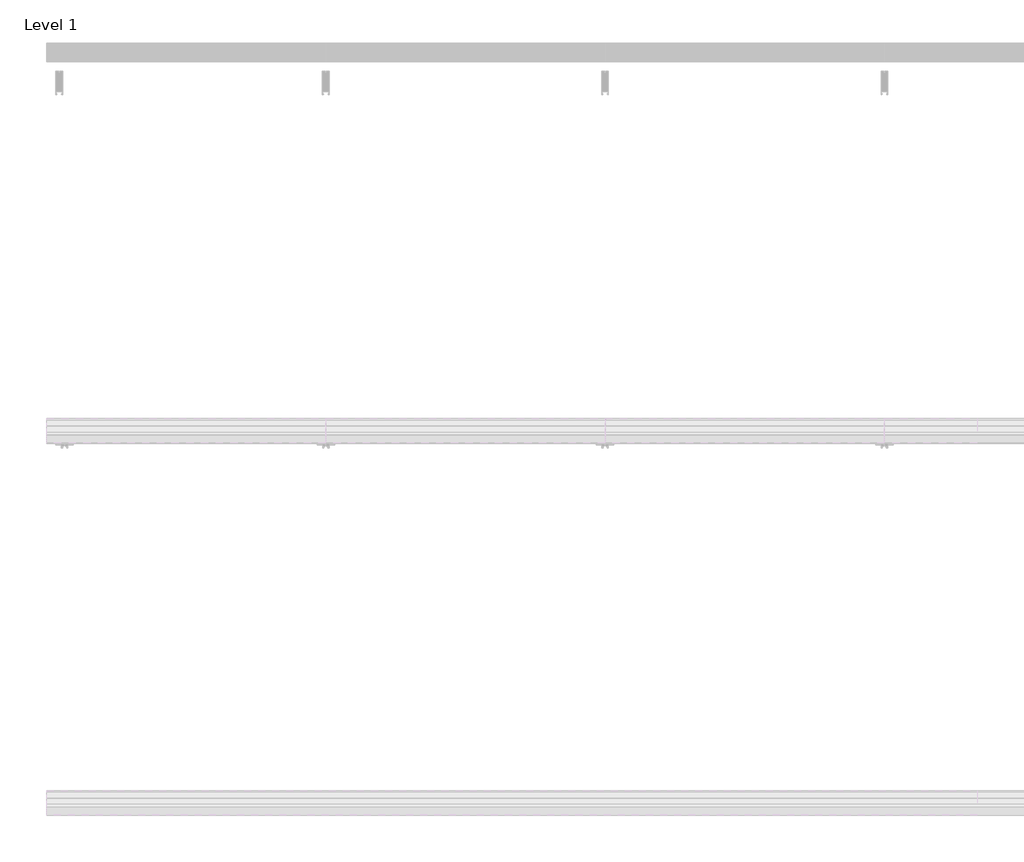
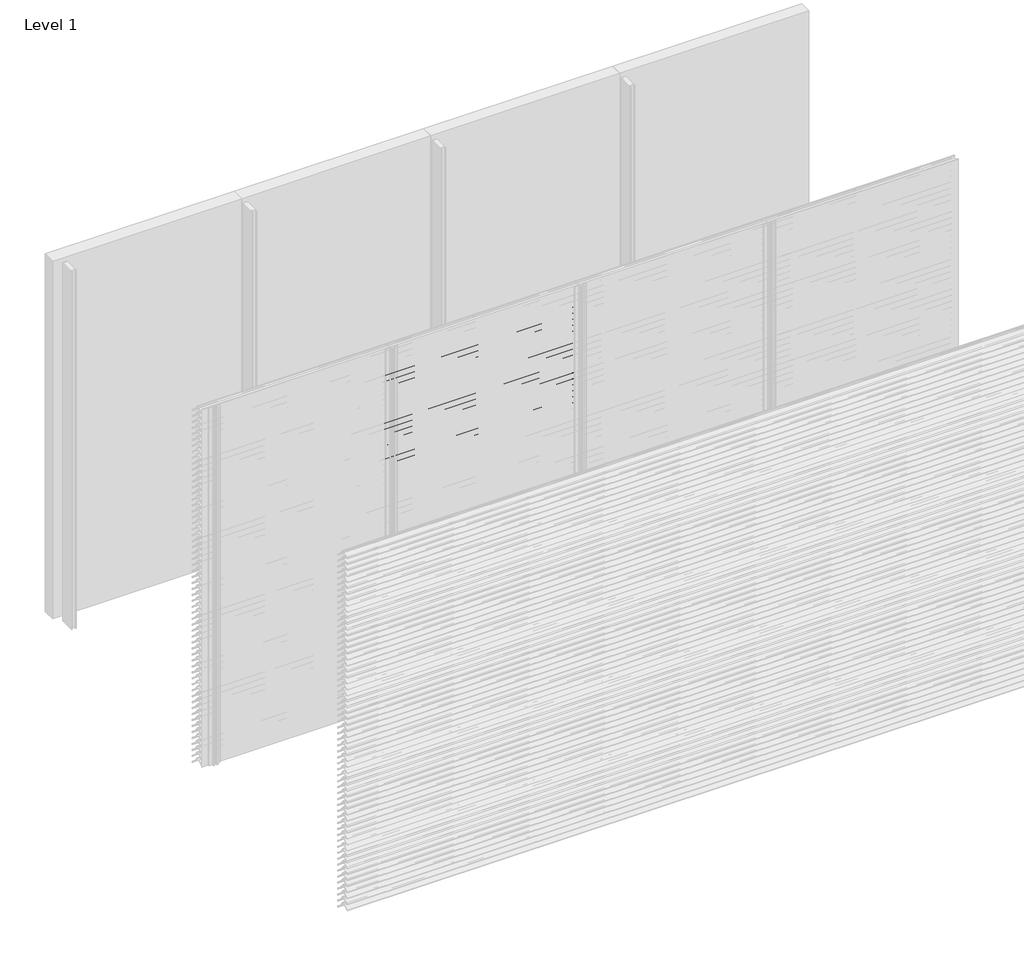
# One storey, part 10 of 173: 17 proxies.
"""IFC4 building model written with IfcOpenShell, lengths in millimetres."""

from ifc_helpers import new_model, si_unit, point, frame, frame_2d, origin, place, context, project, spatial, polyline, circle_curve, trimmed, segment, composite_curve, outline, extrude, element, save

model = new_model("IFC4")

# Units and contexts
model_context = context("Model", 3, world=origin())
ifc_project = project(units=[si_unit("LENGTHUNIT", "METRE", prefix="MILLI")], contexts=[model_context])

# Site, building, storey
site = spatial("IfcSite", under=ifc_project)
building = spatial("IfcBuilding", under=site)
storey = spatial("IfcBuildingStorey", under=building, Name="Level 1", Elevation=0.0)

# Proxies
placement = place(None, origin())
element("IfcBuildingElementProxy", 1, Name="Wall Sweeps", at=placement, inside=storey, context=model_context, shape_type="SweptSolid", body=[
    extrude(outline(composite_curve([segment(polyline([(-53998.0, 2759.1474905), (-53998.0, 2761.6227417)]), True, "CONTINUOUS"), segment(trimmed(circle_curve(frame_2d((-53951.2682172, 2716.2200208)), 65.1557103), [point((-53998.0, 2761.6227417))], [point((-53954.4014323, 2781.3003524))], False, "CARTESIAN"), True, "CONTINUOUS"), segment(polyline([(-53954.4014323, 2781.3003524), (-53934.8315836, 2781.3003524)]), True, "CONTINUOUS"), segment(trimmed(circle_curve(frame_2d((-53732.7329489, 2928.5533172)), 250.0545817), [point((-53934.8315836, 2781.3003524))], [point((-53941.4452143, 2790.8344583))], False, "CARTESIAN"), True, "CONTINUOUS"), segment(trimmed(circle_curve(frame_2d((-53953.2981792, 2785.1737835)), 13.1352966), [point((-53941.4452143, 2790.8344583))], [point((-53953.8171475, 2798.298824))], True, "CARTESIAN"), True, "CONTINUOUS"), segment(polyline([(-53953.8171475, 2798.298824), (-53953.8171475, 2800.0)]), True, "CONTINUOUS"), segment(trimmed(circle_curve(frame_2d((-53953.2981792, 2785.1737835)), 14.8352966), [point((-53953.8171475, 2800.0))], [point((-53939.9637661, 2791.6760487))], False, "CARTESIAN"), True, "CONTINUOUS"), segment(trimmed(circle_curve(frame_2d((-53732.7329489, 2928.5533172)), 248.3545817), [point((-53939.9637661, 2791.6760487))], [point((-53873.8787895, 2724.2059416))], True, "CARTESIAN"), True, "CONTINUOUS"), segment(trimmed(circle_curve(frame_2d((-53883.8147537, 2711.6649442)), 16.0), [point((-53873.8787895, 2724.2059416))], [point((-53867.8648347, 2710.4))], False, "CARTESIAN"), True, "CONTINUOUS"), segment(polyline([(-53867.8648347, 2710.4), (-53869.6712069, 2710.4)]), True, "CONTINUOUS"), segment(trimmed(circle_curve(frame_2d((-53883.8147537, 2711.6649442)), 14.2), [point((-53869.6712069, 2710.4))], [point((-53874.9518628, 2722.7594998))], True, "CARTESIAN"), True, "CONTINUOUS"), segment(trimmed(circle_curve(frame_2d((-53732.7329489, 2928.5533172)), 250.1545817), [point((-53874.9518628, 2722.7594998))], [point((-53933.7064024, 2779.6003524))], False, "CARTESIAN"), True, "CONTINUOUS"), segment(polyline([(-53933.7064024, 2779.6003524), (-53954.3602632, 2779.6003524)]), True, "CONTINUOUS"), segment(trimmed(circle_curve(frame_2d((-53951.2682172, 2716.2200208)), 63.4557103), [point((-53954.3602632, 2779.6003524))], [point((-53998.0, 2759.1474905))], True, "CARTESIAN"), True, "CONTINUOUS")], self_intersect=False)), frame((1500.0, 0.0, 0.0), z_axis=(1.0, 0.0, 0.0), x_axis=(0.0, 1.0, 0.0)), (0.0, 0.0, 1.0), 1500.0),
])
element("IfcBuildingElementProxy", 2, Name="Wall Sweeps", at=placement, inside=storey, context=model_context, shape_type="SweptSolid", body=[
    extrude(outline(composite_curve([segment(polyline([(-53998.0, 2709.1474905), (-53998.0, 2711.6227417)]), True, "CONTINUOUS"), segment(trimmed(circle_curve(frame_2d((-53951.2682172, 2666.2200208)), 65.1557103), [point((-53998.0, 2711.6227417))], [point((-53954.4014323, 2731.3003524))], False, "CARTESIAN"), True, "CONTINUOUS"), segment(polyline([(-53954.4014323, 2731.3003524), (-53934.8315836, 2731.3003524)]), True, "CONTINUOUS"), segment(trimmed(circle_curve(frame_2d((-53732.7329489, 2878.5533172)), 250.0545817), [point((-53934.8315836, 2731.3003524))], [point((-53941.4452143, 2740.8344583))], False, "CARTESIAN"), True, "CONTINUOUS"), segment(trimmed(circle_curve(frame_2d((-53953.2981792, 2735.1737835)), 13.1352966), [point((-53941.4452143, 2740.8344583))], [point((-53953.8171475, 2748.298824))], True, "CARTESIAN"), True, "CONTINUOUS"), segment(polyline([(-53953.8171475, 2748.298824), (-53953.8171475, 2750.0)]), True, "CONTINUOUS"), segment(trimmed(circle_curve(frame_2d((-53953.2981792, 2735.1737835)), 14.8352966), [point((-53953.8171475, 2750.0))], [point((-53939.9637661, 2741.6760487))], False, "CARTESIAN"), True, "CONTINUOUS"), segment(trimmed(circle_curve(frame_2d((-53732.7329489, 2878.5533172)), 248.3545817), [point((-53939.9637661, 2741.6760487))], [point((-53873.8787895, 2674.2059416))], True, "CARTESIAN"), True, "CONTINUOUS"), segment(trimmed(circle_curve(frame_2d((-53883.8147537, 2661.6649442)), 16.0), [point((-53873.8787895, 2674.2059416))], [point((-53867.8648347, 2660.4))], False, "CARTESIAN"), True, "CONTINUOUS"), segment(polyline([(-53867.8648347, 2660.4), (-53869.6712069, 2660.4)]), True, "CONTINUOUS"), segment(trimmed(circle_curve(frame_2d((-53883.8147537, 2661.6649442)), 14.2), [point((-53869.6712069, 2660.4))], [point((-53874.9518628, 2672.7594998))], True, "CARTESIAN"), True, "CONTINUOUS"), segment(trimmed(circle_curve(frame_2d((-53732.7329489, 2878.5533172)), 250.1545817), [point((-53874.9518628, 2672.7594998))], [point((-53933.7064024, 2729.6003524))], False, "CARTESIAN"), True, "CONTINUOUS"), segment(polyline([(-53933.7064024, 2729.6003524), (-53954.3602632, 2729.6003524)]), True, "CONTINUOUS"), segment(trimmed(circle_curve(frame_2d((-53951.2682172, 2666.2200208)), 63.4557103), [point((-53954.3602632, 2729.6003524))], [point((-53998.0, 2709.1474905))], True, "CARTESIAN"), True, "CONTINUOUS")], self_intersect=False)), frame((1500.0, 0.0, 0.0), z_axis=(1.0, 0.0, 0.0), x_axis=(0.0, 1.0, 0.0)), (0.0, 0.0, 1.0), 1500.0),
])
element("IfcBuildingElementProxy", 3, Name="Wall Sweeps", at=placement, inside=storey, context=model_context, shape_type="SweptSolid", body=[
    extrude(outline(composite_curve([segment(polyline([(-53998.0, 2659.1474905), (-53998.0, 2661.6227417)]), True, "CONTINUOUS"), segment(trimmed(circle_curve(frame_2d((-53951.2682172, 2616.2200208)), 65.1557103), [point((-53998.0, 2661.6227417))], [point((-53954.4014323, 2681.3003524))], False, "CARTESIAN"), True, "CONTINUOUS"), segment(polyline([(-53954.4014323, 2681.3003524), (-53934.8315836, 2681.3003524)]), True, "CONTINUOUS"), segment(trimmed(circle_curve(frame_2d((-53732.7329489, 2828.5533172)), 250.0545817), [point((-53934.8315836, 2681.3003524))], [point((-53941.4452143, 2690.8344583))], False, "CARTESIAN"), True, "CONTINUOUS"), segment(trimmed(circle_curve(frame_2d((-53953.2981792, 2685.1737835)), 13.1352966), [point((-53941.4452143, 2690.8344583))], [point((-53953.8171475, 2698.298824))], True, "CARTESIAN"), True, "CONTINUOUS"), segment(polyline([(-53953.8171475, 2698.298824), (-53953.8171475, 2700.0)]), True, "CONTINUOUS"), segment(trimmed(circle_curve(frame_2d((-53953.2981792, 2685.1737835)), 14.8352966), [point((-53953.8171475, 2700.0))], [point((-53939.9637661, 2691.6760487))], False, "CARTESIAN"), True, "CONTINUOUS"), segment(trimmed(circle_curve(frame_2d((-53732.7329489, 2828.5533172)), 248.3545817), [point((-53939.9637661, 2691.6760487))], [point((-53873.8787895, 2624.2059416))], True, "CARTESIAN"), True, "CONTINUOUS"), segment(trimmed(circle_curve(frame_2d((-53883.8147537, 2611.6649442)), 16.0), [point((-53873.8787895, 2624.2059416))], [point((-53867.8648347, 2610.4))], False, "CARTESIAN"), True, "CONTINUOUS"), segment(polyline([(-53867.8648347, 2610.4), (-53869.6712069, 2610.4)]), True, "CONTINUOUS"), segment(trimmed(circle_curve(frame_2d((-53883.8147537, 2611.6649442)), 14.2), [point((-53869.6712069, 2610.4))], [point((-53874.9518628, 2622.7594998))], True, "CARTESIAN"), True, "CONTINUOUS"), segment(trimmed(circle_curve(frame_2d((-53732.7329489, 2828.5533172)), 250.1545817), [point((-53874.9518628, 2622.7594998))], [point((-53933.7064024, 2679.6003524))], False, "CARTESIAN"), True, "CONTINUOUS"), segment(polyline([(-53933.7064024, 2679.6003524), (-53954.3602632, 2679.6003524)]), True, "CONTINUOUS"), segment(trimmed(circle_curve(frame_2d((-53951.2682172, 2616.2200208)), 63.4557103), [point((-53954.3602632, 2679.6003524))], [point((-53998.0, 2659.1474905))], True, "CARTESIAN"), True, "CONTINUOUS")], self_intersect=False)), frame((1500.0, 0.0, 0.0), z_axis=(1.0, 0.0, 0.0), x_axis=(0.0, 1.0, 0.0)), (0.0, 0.0, 1.0), 1500.0),
])
element("IfcBuildingElementProxy", 4, Name="Wall Sweeps", at=placement, inside=storey, context=model_context, shape_type="SweptSolid", body=[
    extrude(outline(composite_curve([segment(polyline([(-53998.0, 2609.1474905), (-53998.0, 2611.6227417)]), True, "CONTINUOUS"), segment(trimmed(circle_curve(frame_2d((-53951.2682172, 2566.2200208)), 65.1557103), [point((-53998.0, 2611.6227417))], [point((-53954.4014323, 2631.3003524))], False, "CARTESIAN"), True, "CONTINUOUS"), segment(polyline([(-53954.4014323, 2631.3003524), (-53934.8315836, 2631.3003524)]), True, "CONTINUOUS"), segment(trimmed(circle_curve(frame_2d((-53732.7329489, 2778.5533172)), 250.0545817), [point((-53934.8315836, 2631.3003524))], [point((-53941.4452143, 2640.8344583))], False, "CARTESIAN"), True, "CONTINUOUS"), segment(trimmed(circle_curve(frame_2d((-53953.2981792, 2635.1737835)), 13.1352966), [point((-53941.4452143, 2640.8344583))], [point((-53953.8171475, 2648.298824))], True, "CARTESIAN"), True, "CONTINUOUS"), segment(polyline([(-53953.8171475, 2648.298824), (-53953.8171475, 2650.0)]), True, "CONTINUOUS"), segment(trimmed(circle_curve(frame_2d((-53953.2981792, 2635.1737835)), 14.8352966), [point((-53953.8171475, 2650.0))], [point((-53939.9637661, 2641.6760487))], False, "CARTESIAN"), True, "CONTINUOUS"), segment(trimmed(circle_curve(frame_2d((-53732.7329489, 2778.5533172)), 248.3545817), [point((-53939.9637661, 2641.6760487))], [point((-53873.8787895, 2574.2059416))], True, "CARTESIAN"), True, "CONTINUOUS"), segment(trimmed(circle_curve(frame_2d((-53883.8147537, 2561.6649442)), 16.0), [point((-53873.8787895, 2574.2059416))], [point((-53867.8648347, 2560.4))], False, "CARTESIAN"), True, "CONTINUOUS"), segment(polyline([(-53867.8648347, 2560.4), (-53869.6712069, 2560.4)]), True, "CONTINUOUS"), segment(trimmed(circle_curve(frame_2d((-53883.8147537, 2561.6649442)), 14.2), [point((-53869.6712069, 2560.4))], [point((-53874.9518628, 2572.7594998))], True, "CARTESIAN"), True, "CONTINUOUS"), segment(trimmed(circle_curve(frame_2d((-53732.7329489, 2778.5533172)), 250.1545817), [point((-53874.9518628, 2572.7594998))], [point((-53933.7064024, 2629.6003524))], False, "CARTESIAN"), True, "CONTINUOUS"), segment(polyline([(-53933.7064024, 2629.6003524), (-53954.3602632, 2629.6003524)]), True, "CONTINUOUS"), segment(trimmed(circle_curve(frame_2d((-53951.2682172, 2566.2200208)), 63.4557103), [point((-53954.3602632, 2629.6003524))], [point((-53998.0, 2609.1474905))], True, "CARTESIAN"), True, "CONTINUOUS")], self_intersect=False)), frame((1500.0, 0.0, 0.0), z_axis=(1.0, 0.0, 0.0), x_axis=(0.0, 1.0, 0.0)), (0.0, 0.0, 1.0), 1500.0),
])
element("IfcBuildingElementProxy", 5, Name="Wall Sweeps", at=placement, inside=storey, context=model_context, shape_type="SweptSolid", body=[
    extrude(outline(composite_curve([segment(polyline([(-53998.0, 2559.1474905), (-53998.0, 2561.6227417)]), True, "CONTINUOUS"), segment(trimmed(circle_curve(frame_2d((-53951.2682172, 2516.2200208)), 65.1557103), [point((-53998.0, 2561.6227417))], [point((-53954.4014323, 2581.3003524))], False, "CARTESIAN"), True, "CONTINUOUS"), segment(polyline([(-53954.4014323, 2581.3003524), (-53934.8315836, 2581.3003524)]), True, "CONTINUOUS"), segment(trimmed(circle_curve(frame_2d((-53732.7329489, 2728.5533172)), 250.0545817), [point((-53934.8315836, 2581.3003524))], [point((-53941.4452143, 2590.8344583))], False, "CARTESIAN"), True, "CONTINUOUS"), segment(trimmed(circle_curve(frame_2d((-53953.2981792, 2585.1737835)), 13.1352966), [point((-53941.4452143, 2590.8344583))], [point((-53953.8171475, 2598.298824))], True, "CARTESIAN"), True, "CONTINUOUS"), segment(polyline([(-53953.8171475, 2598.298824), (-53953.8171475, 2600.0)]), True, "CONTINUOUS"), segment(trimmed(circle_curve(frame_2d((-53953.2981792, 2585.1737835)), 14.8352966), [point((-53953.8171475, 2600.0))], [point((-53939.9637661, 2591.6760487))], False, "CARTESIAN"), True, "CONTINUOUS"), segment(trimmed(circle_curve(frame_2d((-53732.7329489, 2728.5533172)), 248.3545817), [point((-53939.9637661, 2591.6760487))], [point((-53873.8787895, 2524.2059416))], True, "CARTESIAN"), True, "CONTINUOUS"), segment(trimmed(circle_curve(frame_2d((-53883.8147537, 2511.6649442)), 16.0), [point((-53873.8787895, 2524.2059416))], [point((-53867.8648347, 2510.4))], False, "CARTESIAN"), True, "CONTINUOUS"), segment(polyline([(-53867.8648347, 2510.4), (-53869.6712069, 2510.4)]), True, "CONTINUOUS"), segment(trimmed(circle_curve(frame_2d((-53883.8147537, 2511.6649442)), 14.2), [point((-53869.6712069, 2510.4))], [point((-53874.9518628, 2522.7594998))], True, "CARTESIAN"), True, "CONTINUOUS"), segment(trimmed(circle_curve(frame_2d((-53732.7329489, 2728.5533172)), 250.1545817), [point((-53874.9518628, 2522.7594998))], [point((-53933.7064024, 2579.6003524))], False, "CARTESIAN"), True, "CONTINUOUS"), segment(polyline([(-53933.7064024, 2579.6003524), (-53954.3602632, 2579.6003524)]), True, "CONTINUOUS"), segment(trimmed(circle_curve(frame_2d((-53951.2682172, 2516.2200208)), 63.4557103), [point((-53954.3602632, 2579.6003524))], [point((-53998.0, 2559.1474905))], True, "CARTESIAN"), True, "CONTINUOUS")], self_intersect=False)), frame((1500.0, 0.0, 0.0), z_axis=(1.0, 0.0, 0.0), x_axis=(0.0, 1.0, 0.0)), (0.0, 0.0, 1.0), 1500.0),
])
element("IfcBuildingElementProxy", 6, Name="Wall Sweeps", at=placement, inside=storey, context=model_context, shape_type="SweptSolid", body=[
    extrude(outline(composite_curve([segment(polyline([(-53998.0, 2509.1474905), (-53998.0, 2511.6227417)]), True, "CONTINUOUS"), segment(trimmed(circle_curve(frame_2d((-53951.2682172, 2466.2200208)), 65.1557103), [point((-53998.0, 2511.6227417))], [point((-53954.4014323, 2531.3003524))], False, "CARTESIAN"), True, "CONTINUOUS"), segment(polyline([(-53954.4014323, 2531.3003524), (-53934.8315836, 2531.3003524)]), True, "CONTINUOUS"), segment(trimmed(circle_curve(frame_2d((-53732.7329489, 2678.5533172)), 250.0545817), [point((-53934.8315836, 2531.3003524))], [point((-53941.4452143, 2540.8344583))], False, "CARTESIAN"), True, "CONTINUOUS"), segment(trimmed(circle_curve(frame_2d((-53953.2981792, 2535.1737835)), 13.1352966), [point((-53941.4452143, 2540.8344583))], [point((-53953.8171475, 2548.298824))], True, "CARTESIAN"), True, "CONTINUOUS"), segment(polyline([(-53953.8171475, 2548.298824), (-53953.8171475, 2550.0)]), True, "CONTINUOUS"), segment(trimmed(circle_curve(frame_2d((-53953.2981792, 2535.1737835)), 14.8352966), [point((-53953.8171475, 2550.0))], [point((-53939.9637661, 2541.6760487))], False, "CARTESIAN"), True, "CONTINUOUS"), segment(trimmed(circle_curve(frame_2d((-53732.7329489, 2678.5533172)), 248.3545817), [point((-53939.9637661, 2541.6760487))], [point((-53873.8787895, 2474.2059416))], True, "CARTESIAN"), True, "CONTINUOUS"), segment(trimmed(circle_curve(frame_2d((-53883.8147537, 2461.6649442)), 16.0), [point((-53873.8787895, 2474.2059416))], [point((-53867.8648347, 2460.4))], False, "CARTESIAN"), True, "CONTINUOUS"), segment(polyline([(-53867.8648347, 2460.4), (-53869.6712069, 2460.4)]), True, "CONTINUOUS"), segment(trimmed(circle_curve(frame_2d((-53883.8147537, 2461.6649442)), 14.2), [point((-53869.6712069, 2460.4))], [point((-53874.9518628, 2472.7594998))], True, "CARTESIAN"), True, "CONTINUOUS"), segment(trimmed(circle_curve(frame_2d((-53732.7329489, 2678.5533172)), 250.1545817), [point((-53874.9518628, 2472.7594998))], [point((-53933.7064024, 2529.6003524))], False, "CARTESIAN"), True, "CONTINUOUS"), segment(polyline([(-53933.7064024, 2529.6003524), (-53954.3602632, 2529.6003524)]), True, "CONTINUOUS"), segment(trimmed(circle_curve(frame_2d((-53951.2682172, 2466.2200208)), 63.4557103), [point((-53954.3602632, 2529.6003524))], [point((-53998.0, 2509.1474905))], True, "CARTESIAN"), True, "CONTINUOUS")], self_intersect=False)), frame((1500.0, 0.0, 0.0), z_axis=(1.0, 0.0, 0.0), x_axis=(0.0, 1.0, 0.0)), (0.0, 0.0, 1.0), 1500.0),
])
element("IfcBuildingElementProxy", 7, Name="Wall Sweeps", at=placement, inside=storey, context=model_context, shape_type="SweptSolid", body=[
    extrude(outline(composite_curve([segment(polyline([(-53998.0, 2459.1474905), (-53998.0, 2461.6227417)]), True, "CONTINUOUS"), segment(trimmed(circle_curve(frame_2d((-53951.2682172, 2416.2200208)), 65.1557103), [point((-53998.0, 2461.6227417))], [point((-53954.4014323, 2481.3003524))], False, "CARTESIAN"), True, "CONTINUOUS"), segment(polyline([(-53954.4014323, 2481.3003524), (-53934.8315836, 2481.3003524)]), True, "CONTINUOUS"), segment(trimmed(circle_curve(frame_2d((-53732.7329489, 2628.5533172)), 250.0545817), [point((-53934.8315836, 2481.3003524))], [point((-53941.4452143, 2490.8344583))], False, "CARTESIAN"), True, "CONTINUOUS"), segment(trimmed(circle_curve(frame_2d((-53953.2981792, 2485.1737835)), 13.1352966), [point((-53941.4452143, 2490.8344583))], [point((-53953.8171475, 2498.298824))], True, "CARTESIAN"), True, "CONTINUOUS"), segment(polyline([(-53953.8171475, 2498.298824), (-53953.8171475, 2500.0)]), True, "CONTINUOUS"), segment(trimmed(circle_curve(frame_2d((-53953.2981792, 2485.1737835)), 14.8352966), [point((-53953.8171475, 2500.0))], [point((-53939.9637661, 2491.6760487))], False, "CARTESIAN"), True, "CONTINUOUS"), segment(trimmed(circle_curve(frame_2d((-53732.7329489, 2628.5533172)), 248.3545817), [point((-53939.9637661, 2491.6760487))], [point((-53873.8787895, 2424.2059416))], True, "CARTESIAN"), True, "CONTINUOUS"), segment(trimmed(circle_curve(frame_2d((-53883.8147537, 2411.6649442)), 16.0), [point((-53873.8787895, 2424.2059416))], [point((-53867.8648347, 2410.4))], False, "CARTESIAN"), True, "CONTINUOUS"), segment(polyline([(-53867.8648347, 2410.4), (-53869.6712069, 2410.4)]), True, "CONTINUOUS"), segment(trimmed(circle_curve(frame_2d((-53883.8147537, 2411.6649442)), 14.2), [point((-53869.6712069, 2410.4))], [point((-53874.9518628, 2422.7594998))], True, "CARTESIAN"), True, "CONTINUOUS"), segment(trimmed(circle_curve(frame_2d((-53732.7329489, 2628.5533172)), 250.1545817), [point((-53874.9518628, 2422.7594998))], [point((-53933.7064024, 2479.6003524))], False, "CARTESIAN"), True, "CONTINUOUS"), segment(polyline([(-53933.7064024, 2479.6003524), (-53954.3602632, 2479.6003524)]), True, "CONTINUOUS"), segment(trimmed(circle_curve(frame_2d((-53951.2682172, 2416.2200208)), 63.4557103), [point((-53954.3602632, 2479.6003524))], [point((-53998.0, 2459.1474905))], True, "CARTESIAN"), True, "CONTINUOUS")], self_intersect=False)), frame((1500.0, 0.0, 0.0), z_axis=(1.0, 0.0, 0.0), x_axis=(0.0, 1.0, 0.0)), (0.0, 0.0, 1.0), 1500.0),
])
element("IfcBuildingElementProxy", 8, Name="Wall Sweeps", at=placement, inside=storey, context=model_context, shape_type="SweptSolid", body=[
    extrude(outline(composite_curve([segment(polyline([(-53998.0, 2409.1474905), (-53998.0, 2411.6227417)]), True, "CONTINUOUS"), segment(trimmed(circle_curve(frame_2d((-53951.2682172, 2366.2200208)), 65.1557103), [point((-53998.0, 2411.6227417))], [point((-53954.4014323, 2431.3003524))], False, "CARTESIAN"), True, "CONTINUOUS"), segment(polyline([(-53954.4014323, 2431.3003524), (-53934.8315836, 2431.3003524)]), True, "CONTINUOUS"), segment(trimmed(circle_curve(frame_2d((-53732.7329489, 2578.5533172)), 250.0545817), [point((-53934.8315836, 2431.3003524))], [point((-53941.4452143, 2440.8344583))], False, "CARTESIAN"), True, "CONTINUOUS"), segment(trimmed(circle_curve(frame_2d((-53953.2981792, 2435.1737835)), 13.1352966), [point((-53941.4452143, 2440.8344583))], [point((-53953.8171475, 2448.298824))], True, "CARTESIAN"), True, "CONTINUOUS"), segment(polyline([(-53953.8171475, 2448.298824), (-53953.8171475, 2450.0)]), True, "CONTINUOUS"), segment(trimmed(circle_curve(frame_2d((-53953.2981792, 2435.1737835)), 14.8352966), [point((-53953.8171475, 2450.0))], [point((-53939.9637661, 2441.6760487))], False, "CARTESIAN"), True, "CONTINUOUS"), segment(trimmed(circle_curve(frame_2d((-53732.7329489, 2578.5533172)), 248.3545817), [point((-53939.9637661, 2441.6760487))], [point((-53873.8787895, 2374.2059416))], True, "CARTESIAN"), True, "CONTINUOUS"), segment(trimmed(circle_curve(frame_2d((-53883.8147537, 2361.6649442)), 16.0), [point((-53873.8787895, 2374.2059416))], [point((-53867.8648347, 2360.4))], False, "CARTESIAN"), True, "CONTINUOUS"), segment(polyline([(-53867.8648347, 2360.4), (-53869.6712069, 2360.4)]), True, "CONTINUOUS"), segment(trimmed(circle_curve(frame_2d((-53883.8147537, 2361.6649442)), 14.2), [point((-53869.6712069, 2360.4))], [point((-53874.9518628, 2372.7594998))], True, "CARTESIAN"), True, "CONTINUOUS"), segment(trimmed(circle_curve(frame_2d((-53732.7329489, 2578.5533172)), 250.1545817), [point((-53874.9518628, 2372.7594998))], [point((-53933.7064024, 2429.6003524))], False, "CARTESIAN"), True, "CONTINUOUS"), segment(polyline([(-53933.7064024, 2429.6003524), (-53954.3602632, 2429.6003524)]), True, "CONTINUOUS"), segment(trimmed(circle_curve(frame_2d((-53951.2682172, 2366.2200208)), 63.4557103), [point((-53954.3602632, 2429.6003524))], [point((-53998.0, 2409.1474905))], True, "CARTESIAN"), True, "CONTINUOUS")], self_intersect=False)), frame((1500.0, 0.0, 0.0), z_axis=(1.0, 0.0, 0.0), x_axis=(0.0, 1.0, 0.0)), (0.0, 0.0, 1.0), 1500.0),
])
element("IfcBuildingElementProxy", 9, Name="Wall Sweeps", at=placement, inside=storey, context=model_context, shape_type="SweptSolid", body=[
    extrude(outline(composite_curve([segment(polyline([(-53998.0, 2359.1474905), (-53998.0, 2361.6227417)]), True, "CONTINUOUS"), segment(trimmed(circle_curve(frame_2d((-53951.2682172, 2316.2200208)), 65.1557103), [point((-53998.0, 2361.6227417))], [point((-53954.4014323, 2381.3003524))], False, "CARTESIAN"), True, "CONTINUOUS"), segment(polyline([(-53954.4014323, 2381.3003524), (-53934.8315836, 2381.3003524)]), True, "CONTINUOUS"), segment(trimmed(circle_curve(frame_2d((-53732.7329489, 2528.5533172)), 250.0545817), [point((-53934.8315836, 2381.3003524))], [point((-53941.4452143, 2390.8344583))], False, "CARTESIAN"), True, "CONTINUOUS"), segment(trimmed(circle_curve(frame_2d((-53953.2981792, 2385.1737835)), 13.1352966), [point((-53941.4452143, 2390.8344583))], [point((-53953.8171475, 2398.298824))], True, "CARTESIAN"), True, "CONTINUOUS"), segment(polyline([(-53953.8171475, 2398.298824), (-53953.8171475, 2400.0)]), True, "CONTINUOUS"), segment(trimmed(circle_curve(frame_2d((-53953.2981792, 2385.1737835)), 14.8352966), [point((-53953.8171475, 2400.0))], [point((-53939.9637661, 2391.6760487))], False, "CARTESIAN"), True, "CONTINUOUS"), segment(trimmed(circle_curve(frame_2d((-53732.7329489, 2528.5533172)), 248.3545817), [point((-53939.9637661, 2391.6760487))], [point((-53873.8787895, 2324.2059416))], True, "CARTESIAN"), True, "CONTINUOUS"), segment(trimmed(circle_curve(frame_2d((-53883.8147537, 2311.6649442)), 16.0), [point((-53873.8787895, 2324.2059416))], [point((-53867.8648347, 2310.4))], False, "CARTESIAN"), True, "CONTINUOUS"), segment(polyline([(-53867.8648347, 2310.4), (-53869.6712069, 2310.4)]), True, "CONTINUOUS"), segment(trimmed(circle_curve(frame_2d((-53883.8147537, 2311.6649442)), 14.2), [point((-53869.6712069, 2310.4))], [point((-53874.9518628, 2322.7594998))], True, "CARTESIAN"), True, "CONTINUOUS"), segment(trimmed(circle_curve(frame_2d((-53732.7329489, 2528.5533172)), 250.1545817), [point((-53874.9518628, 2322.7594998))], [point((-53933.7064024, 2379.6003524))], False, "CARTESIAN"), True, "CONTINUOUS"), segment(polyline([(-53933.7064024, 2379.6003524), (-53954.3602632, 2379.6003524)]), True, "CONTINUOUS"), segment(trimmed(circle_curve(frame_2d((-53951.2682172, 2316.2200208)), 63.4557103), [point((-53954.3602632, 2379.6003524))], [point((-53998.0, 2359.1474905))], True, "CARTESIAN"), True, "CONTINUOUS")], self_intersect=False)), frame((1500.0, 0.0, 0.0), z_axis=(1.0, 0.0, 0.0), x_axis=(0.0, 1.0, 0.0)), (0.0, 0.0, 1.0), 1500.0),
])
element("IfcBuildingElementProxy", 10, Name="Wall Sweeps", at=placement, inside=storey, context=model_context, shape_type="SweptSolid", body=[
    extrude(outline(composite_curve([segment(polyline([(-53998.0, 2309.1474905), (-53998.0, 2311.6227417)]), True, "CONTINUOUS"), segment(trimmed(circle_curve(frame_2d((-53951.2682172, 2266.2200208)), 65.1557103), [point((-53998.0, 2311.6227417))], [point((-53954.4014323, 2331.3003524))], False, "CARTESIAN"), True, "CONTINUOUS"), segment(polyline([(-53954.4014323, 2331.3003524), (-53934.8315836, 2331.3003524)]), True, "CONTINUOUS"), segment(trimmed(circle_curve(frame_2d((-53732.7329489, 2478.5533172)), 250.0545817), [point((-53934.8315836, 2331.3003524))], [point((-53941.4452143, 2340.8344583))], False, "CARTESIAN"), True, "CONTINUOUS"), segment(trimmed(circle_curve(frame_2d((-53953.2981792, 2335.1737835)), 13.1352966), [point((-53941.4452143, 2340.8344583))], [point((-53953.8171475, 2348.298824))], True, "CARTESIAN"), True, "CONTINUOUS"), segment(polyline([(-53953.8171475, 2348.298824), (-53953.8171475, 2350.0)]), True, "CONTINUOUS"), segment(trimmed(circle_curve(frame_2d((-53953.2981792, 2335.1737835)), 14.8352966), [point((-53953.8171475, 2350.0))], [point((-53939.9637661, 2341.6760487))], False, "CARTESIAN"), True, "CONTINUOUS"), segment(trimmed(circle_curve(frame_2d((-53732.7329489, 2478.5533172)), 248.3545817), [point((-53939.9637661, 2341.6760487))], [point((-53873.8787895, 2274.2059416))], True, "CARTESIAN"), True, "CONTINUOUS"), segment(trimmed(circle_curve(frame_2d((-53883.8147537, 2261.6649442)), 16.0), [point((-53873.8787895, 2274.2059416))], [point((-53867.8648347, 2260.4))], False, "CARTESIAN"), True, "CONTINUOUS"), segment(polyline([(-53867.8648347, 2260.4), (-53869.6712069, 2260.4)]), True, "CONTINUOUS"), segment(trimmed(circle_curve(frame_2d((-53883.8147537, 2261.6649442)), 14.2), [point((-53869.6712069, 2260.4))], [point((-53874.9518628, 2272.7594998))], True, "CARTESIAN"), True, "CONTINUOUS"), segment(trimmed(circle_curve(frame_2d((-53732.7329489, 2478.5533172)), 250.1545817), [point((-53874.9518628, 2272.7594998))], [point((-53933.7064024, 2329.6003524))], False, "CARTESIAN"), True, "CONTINUOUS"), segment(polyline([(-53933.7064024, 2329.6003524), (-53954.3602632, 2329.6003524)]), True, "CONTINUOUS"), segment(trimmed(circle_curve(frame_2d((-53951.2682172, 2266.2200208)), 63.4557103), [point((-53954.3602632, 2329.6003524))], [point((-53998.0, 2309.1474905))], True, "CARTESIAN"), True, "CONTINUOUS")], self_intersect=False)), frame((1500.0, 0.0, 0.0), z_axis=(1.0, 0.0, 0.0), x_axis=(0.0, 1.0, 0.0)), (0.0, 0.0, 1.0), 1500.0),
])
element("IfcBuildingElementProxy", 11, Name="Wall Sweeps", at=placement, inside=storey, context=model_context, shape_type="SweptSolid", body=[
    extrude(outline(composite_curve([segment(polyline([(-53998.0, 2259.1474905), (-53998.0, 2261.6227417)]), True, "CONTINUOUS"), segment(trimmed(circle_curve(frame_2d((-53951.2682172, 2216.2200208)), 65.1557103), [point((-53998.0, 2261.6227417))], [point((-53954.4014323, 2281.3003524))], False, "CARTESIAN"), True, "CONTINUOUS"), segment(polyline([(-53954.4014323, 2281.3003524), (-53934.8315836, 2281.3003524)]), True, "CONTINUOUS"), segment(trimmed(circle_curve(frame_2d((-53732.7329489, 2428.5533172)), 250.0545817), [point((-53934.8315836, 2281.3003524))], [point((-53941.4452143, 2290.8344583))], False, "CARTESIAN"), True, "CONTINUOUS"), segment(trimmed(circle_curve(frame_2d((-53953.2981792, 2285.1737835)), 13.1352966), [point((-53941.4452143, 2290.8344583))], [point((-53953.8171475, 2298.298824))], True, "CARTESIAN"), True, "CONTINUOUS"), segment(polyline([(-53953.8171475, 2298.298824), (-53953.8171475, 2300.0)]), True, "CONTINUOUS"), segment(trimmed(circle_curve(frame_2d((-53953.2981792, 2285.1737835)), 14.8352966), [point((-53953.8171475, 2300.0))], [point((-53939.9637661, 2291.6760487))], False, "CARTESIAN"), True, "CONTINUOUS"), segment(trimmed(circle_curve(frame_2d((-53732.7329489, 2428.5533172)), 248.3545817), [point((-53939.9637661, 2291.6760487))], [point((-53873.8787895, 2224.2059416))], True, "CARTESIAN"), True, "CONTINUOUS"), segment(trimmed(circle_curve(frame_2d((-53883.8147537, 2211.6649442)), 16.0), [point((-53873.8787895, 2224.2059416))], [point((-53867.8648347, 2210.4))], False, "CARTESIAN"), True, "CONTINUOUS"), segment(polyline([(-53867.8648347, 2210.4), (-53869.6712069, 2210.4)]), True, "CONTINUOUS"), segment(trimmed(circle_curve(frame_2d((-53883.8147537, 2211.6649442)), 14.2), [point((-53869.6712069, 2210.4))], [point((-53874.9518628, 2222.7594998))], True, "CARTESIAN"), True, "CONTINUOUS"), segment(trimmed(circle_curve(frame_2d((-53732.7329489, 2428.5533172)), 250.1545817), [point((-53874.9518628, 2222.7594998))], [point((-53933.7064024, 2279.6003524))], False, "CARTESIAN"), True, "CONTINUOUS"), segment(polyline([(-53933.7064024, 2279.6003524), (-53954.3602632, 2279.6003524)]), True, "CONTINUOUS"), segment(trimmed(circle_curve(frame_2d((-53951.2682172, 2216.2200208)), 63.4557103), [point((-53954.3602632, 2279.6003524))], [point((-53998.0, 2259.1474905))], True, "CARTESIAN"), True, "CONTINUOUS")], self_intersect=False)), frame((1500.0, 0.0, 0.0), z_axis=(1.0, 0.0, 0.0), x_axis=(0.0, 1.0, 0.0)), (0.0, 0.0, 1.0), 1500.0),
])
element("IfcBuildingElementProxy", 12, Name="Wall Sweeps", at=placement, inside=storey, context=model_context, shape_type="SweptSolid", body=[
    extrude(outline(composite_curve([segment(polyline([(-53998.0, 2209.1474905), (-53998.0, 2211.6227417)]), True, "CONTINUOUS"), segment(trimmed(circle_curve(frame_2d((-53951.2682172, 2166.2200208)), 65.1557103), [point((-53998.0, 2211.6227417))], [point((-53954.4014323, 2231.3003524))], False, "CARTESIAN"), True, "CONTINUOUS"), segment(polyline([(-53954.4014323, 2231.3003524), (-53934.8315836, 2231.3003524)]), True, "CONTINUOUS"), segment(trimmed(circle_curve(frame_2d((-53732.7329489, 2378.5533172)), 250.0545817), [point((-53934.8315836, 2231.3003524))], [point((-53941.4452143, 2240.8344583))], False, "CARTESIAN"), True, "CONTINUOUS"), segment(trimmed(circle_curve(frame_2d((-53953.2981792, 2235.1737835)), 13.1352966), [point((-53941.4452143, 2240.8344583))], [point((-53953.8171475, 2248.298824))], True, "CARTESIAN"), True, "CONTINUOUS"), segment(polyline([(-53953.8171475, 2248.298824), (-53953.8171475, 2250.0)]), True, "CONTINUOUS"), segment(trimmed(circle_curve(frame_2d((-53953.2981792, 2235.1737835)), 14.8352966), [point((-53953.8171475, 2250.0))], [point((-53939.9637661, 2241.6760487))], False, "CARTESIAN"), True, "CONTINUOUS"), segment(trimmed(circle_curve(frame_2d((-53732.7329489, 2378.5533172)), 248.3545817), [point((-53939.9637661, 2241.6760487))], [point((-53873.8787895, 2174.2059416))], True, "CARTESIAN"), True, "CONTINUOUS"), segment(trimmed(circle_curve(frame_2d((-53883.8147537, 2161.6649442)), 16.0), [point((-53873.8787895, 2174.2059416))], [point((-53867.8648347, 2160.4))], False, "CARTESIAN"), True, "CONTINUOUS"), segment(polyline([(-53867.8648347, 2160.4), (-53869.6712069, 2160.4)]), True, "CONTINUOUS"), segment(trimmed(circle_curve(frame_2d((-53883.8147537, 2161.6649442)), 14.2), [point((-53869.6712069, 2160.4))], [point((-53874.9518628, 2172.7594998))], True, "CARTESIAN"), True, "CONTINUOUS"), segment(trimmed(circle_curve(frame_2d((-53732.7329489, 2378.5533172)), 250.1545817), [point((-53874.9518628, 2172.7594998))], [point((-53933.7064024, 2229.6003524))], False, "CARTESIAN"), True, "CONTINUOUS"), segment(polyline([(-53933.7064024, 2229.6003524), (-53954.3602632, 2229.6003524)]), True, "CONTINUOUS"), segment(trimmed(circle_curve(frame_2d((-53951.2682172, 2166.2200208)), 63.4557103), [point((-53954.3602632, 2229.6003524))], [point((-53998.0, 2209.1474905))], True, "CARTESIAN"), True, "CONTINUOUS")], self_intersect=False)), frame((1500.0, 0.0, 0.0), z_axis=(1.0, 0.0, 0.0), x_axis=(0.0, 1.0, 0.0)), (0.0, 0.0, 1.0), 1500.0),
])
element("IfcBuildingElementProxy", 13, Name="Wall Sweeps", at=placement, inside=storey, context=model_context, shape_type="SweptSolid", body=[
    extrude(outline(composite_curve([segment(polyline([(-53998.0, 2159.1474905), (-53998.0, 2161.6227417)]), True, "CONTINUOUS"), segment(trimmed(circle_curve(frame_2d((-53951.2682172, 2116.2200208)), 65.1557103), [point((-53998.0, 2161.6227417))], [point((-53954.4014323, 2181.3003524))], False, "CARTESIAN"), True, "CONTINUOUS"), segment(polyline([(-53954.4014323, 2181.3003524), (-53934.8315836, 2181.3003524)]), True, "CONTINUOUS"), segment(trimmed(circle_curve(frame_2d((-53732.7329489, 2328.5533172)), 250.0545817), [point((-53934.8315836, 2181.3003524))], [point((-53941.4452143, 2190.8344583))], False, "CARTESIAN"), True, "CONTINUOUS"), segment(trimmed(circle_curve(frame_2d((-53953.2981792, 2185.1737835)), 13.1352966), [point((-53941.4452143, 2190.8344583))], [point((-53953.8171475, 2198.298824))], True, "CARTESIAN"), True, "CONTINUOUS"), segment(polyline([(-53953.8171475, 2198.298824), (-53953.8171475, 2200.0)]), True, "CONTINUOUS"), segment(trimmed(circle_curve(frame_2d((-53953.2981792, 2185.1737835)), 14.8352966), [point((-53953.8171475, 2200.0))], [point((-53939.9637661, 2191.6760487))], False, "CARTESIAN"), True, "CONTINUOUS"), segment(trimmed(circle_curve(frame_2d((-53732.7329489, 2328.5533172)), 248.3545817), [point((-53939.9637661, 2191.6760487))], [point((-53873.8787895, 2124.2059416))], True, "CARTESIAN"), True, "CONTINUOUS"), segment(trimmed(circle_curve(frame_2d((-53883.8147537, 2111.6649442)), 16.0), [point((-53873.8787895, 2124.2059416))], [point((-53867.8648347, 2110.4))], False, "CARTESIAN"), True, "CONTINUOUS"), segment(polyline([(-53867.8648347, 2110.4), (-53869.6712069, 2110.4)]), True, "CONTINUOUS"), segment(trimmed(circle_curve(frame_2d((-53883.8147537, 2111.6649442)), 14.2), [point((-53869.6712069, 2110.4))], [point((-53874.9518628, 2122.7594998))], True, "CARTESIAN"), True, "CONTINUOUS"), segment(trimmed(circle_curve(frame_2d((-53732.7329489, 2328.5533172)), 250.1545817), [point((-53874.9518628, 2122.7594998))], [point((-53933.7064024, 2179.6003524))], False, "CARTESIAN"), True, "CONTINUOUS"), segment(polyline([(-53933.7064024, 2179.6003524), (-53954.3602632, 2179.6003524)]), True, "CONTINUOUS"), segment(trimmed(circle_curve(frame_2d((-53951.2682172, 2116.2200208)), 63.4557103), [point((-53954.3602632, 2179.6003524))], [point((-53998.0, 2159.1474905))], True, "CARTESIAN"), True, "CONTINUOUS")], self_intersect=False)), frame((1500.0, 0.0, 0.0), z_axis=(1.0, 0.0, 0.0), x_axis=(0.0, 1.0, 0.0)), (0.0, 0.0, 1.0), 1500.0),
])
element("IfcBuildingElementProxy", 14, Name="Wall Sweeps", at=placement, inside=storey, context=model_context, shape_type="SweptSolid", body=[
    extrude(outline(composite_curve([segment(polyline([(-53998.0, 2109.1474905), (-53998.0, 2111.6227417)]), True, "CONTINUOUS"), segment(trimmed(circle_curve(frame_2d((-53951.2682172, 2066.2200208)), 65.1557103), [point((-53998.0, 2111.6227417))], [point((-53954.4014323, 2131.3003524))], False, "CARTESIAN"), True, "CONTINUOUS"), segment(polyline([(-53954.4014323, 2131.3003524), (-53934.8315836, 2131.3003524)]), True, "CONTINUOUS"), segment(trimmed(circle_curve(frame_2d((-53732.7329489, 2278.5533172)), 250.0545817), [point((-53934.8315836, 2131.3003524))], [point((-53941.4452143, 2140.8344583))], False, "CARTESIAN"), True, "CONTINUOUS"), segment(trimmed(circle_curve(frame_2d((-53953.2981792, 2135.1737835)), 13.1352966), [point((-53941.4452143, 2140.8344583))], [point((-53953.8171475, 2148.298824))], True, "CARTESIAN"), True, "CONTINUOUS"), segment(polyline([(-53953.8171475, 2148.298824), (-53953.8171475, 2150.0)]), True, "CONTINUOUS"), segment(trimmed(circle_curve(frame_2d((-53953.2981792, 2135.1737835)), 14.8352966), [point((-53953.8171475, 2150.0))], [point((-53939.9637661, 2141.6760487))], False, "CARTESIAN"), True, "CONTINUOUS"), segment(trimmed(circle_curve(frame_2d((-53732.7329489, 2278.5533172)), 248.3545817), [point((-53939.9637661, 2141.6760487))], [point((-53873.8787895, 2074.2059416))], True, "CARTESIAN"), True, "CONTINUOUS"), segment(trimmed(circle_curve(frame_2d((-53883.8147537, 2061.6649442)), 16.0), [point((-53873.8787895, 2074.2059416))], [point((-53867.8648347, 2060.4))], False, "CARTESIAN"), True, "CONTINUOUS"), segment(polyline([(-53867.8648347, 2060.4), (-53869.6712069, 2060.4)]), True, "CONTINUOUS"), segment(trimmed(circle_curve(frame_2d((-53883.8147537, 2061.6649442)), 14.2), [point((-53869.6712069, 2060.4))], [point((-53874.9518628, 2072.7594998))], True, "CARTESIAN"), True, "CONTINUOUS"), segment(trimmed(circle_curve(frame_2d((-53732.7329489, 2278.5533172)), 250.1545817), [point((-53874.9518628, 2072.7594998))], [point((-53933.7064024, 2129.6003524))], False, "CARTESIAN"), True, "CONTINUOUS"), segment(polyline([(-53933.7064024, 2129.6003524), (-53954.3602632, 2129.6003524)]), True, "CONTINUOUS"), segment(trimmed(circle_curve(frame_2d((-53951.2682172, 2066.2200208)), 63.4557103), [point((-53954.3602632, 2129.6003524))], [point((-53998.0, 2109.1474905))], True, "CARTESIAN"), True, "CONTINUOUS")], self_intersect=False)), frame((1500.0, 0.0, 0.0), z_axis=(1.0, 0.0, 0.0), x_axis=(0.0, 1.0, 0.0)), (0.0, 0.0, 1.0), 1500.0),
])
element("IfcBuildingElementProxy", 15, Name="Wall Sweeps", at=placement, inside=storey, context=model_context, shape_type="SweptSolid", body=[
    extrude(outline(composite_curve([segment(polyline([(-53998.0, 2059.1474905), (-53998.0, 2061.6227417)]), True, "CONTINUOUS"), segment(trimmed(circle_curve(frame_2d((-53951.2682172, 2016.2200208)), 65.1557103), [point((-53998.0, 2061.6227417))], [point((-53954.4014323, 2081.3003524))], False, "CARTESIAN"), True, "CONTINUOUS"), segment(polyline([(-53954.4014323, 2081.3003524), (-53934.8315836, 2081.3003524)]), True, "CONTINUOUS"), segment(trimmed(circle_curve(frame_2d((-53732.7329489, 2228.5533172)), 250.0545817), [point((-53934.8315836, 2081.3003524))], [point((-53941.4452143, 2090.8344583))], False, "CARTESIAN"), True, "CONTINUOUS"), segment(trimmed(circle_curve(frame_2d((-53953.2981792, 2085.1737835)), 13.1352966), [point((-53941.4452143, 2090.8344583))], [point((-53953.8171475, 2098.298824))], True, "CARTESIAN"), True, "CONTINUOUS"), segment(polyline([(-53953.8171475, 2098.298824), (-53953.8171475, 2100.0)]), True, "CONTINUOUS"), segment(trimmed(circle_curve(frame_2d((-53953.2981792, 2085.1737835)), 14.8352966), [point((-53953.8171475, 2100.0))], [point((-53939.9637661, 2091.6760487))], False, "CARTESIAN"), True, "CONTINUOUS"), segment(trimmed(circle_curve(frame_2d((-53732.7329489, 2228.5533172)), 248.3545817), [point((-53939.9637661, 2091.6760487))], [point((-53873.8787895, 2024.2059416))], True, "CARTESIAN"), True, "CONTINUOUS"), segment(trimmed(circle_curve(frame_2d((-53883.8147537, 2011.6649442)), 16.0), [point((-53873.8787895, 2024.2059416))], [point((-53867.8648347, 2010.4))], False, "CARTESIAN"), True, "CONTINUOUS"), segment(polyline([(-53867.8648347, 2010.4), (-53869.6712069, 2010.4)]), True, "CONTINUOUS"), segment(trimmed(circle_curve(frame_2d((-53883.8147537, 2011.6649442)), 14.2), [point((-53869.6712069, 2010.4))], [point((-53874.9518628, 2022.7594998))], True, "CARTESIAN"), True, "CONTINUOUS"), segment(trimmed(circle_curve(frame_2d((-53732.7329489, 2228.5533172)), 250.1545817), [point((-53874.9518628, 2022.7594998))], [point((-53933.7064024, 2079.6003524))], False, "CARTESIAN"), True, "CONTINUOUS"), segment(polyline([(-53933.7064024, 2079.6003524), (-53954.3602632, 2079.6003524)]), True, "CONTINUOUS"), segment(trimmed(circle_curve(frame_2d((-53951.2682172, 2016.2200208)), 63.4557103), [point((-53954.3602632, 2079.6003524))], [point((-53998.0, 2059.1474905))], True, "CARTESIAN"), True, "CONTINUOUS")], self_intersect=False)), frame((1500.0, 0.0, 0.0), z_axis=(1.0, 0.0, 0.0), x_axis=(0.0, 1.0, 0.0)), (0.0, 0.0, 1.0), 1500.0),
])
element("IfcBuildingElementProxy", 16, Name="Wall Sweeps", at=placement, inside=storey, context=model_context, shape_type="SweptSolid", body=[
    extrude(outline(composite_curve([segment(polyline([(-53998.0, 2009.1474905), (-53998.0, 2011.6227417)]), True, "CONTINUOUS"), segment(trimmed(circle_curve(frame_2d((-53951.2682172, 1966.2200208)), 65.1557103), [point((-53998.0, 2011.6227417))], [point((-53954.4014323, 2031.3003524))], False, "CARTESIAN"), True, "CONTINUOUS"), segment(polyline([(-53954.4014323, 2031.3003524), (-53934.8315836, 2031.3003524)]), True, "CONTINUOUS"), segment(trimmed(circle_curve(frame_2d((-53732.7329489, 2178.5533172)), 250.0545817), [point((-53934.8315836, 2031.3003524))], [point((-53941.4452143, 2040.8344583))], False, "CARTESIAN"), True, "CONTINUOUS"), segment(trimmed(circle_curve(frame_2d((-53953.2981792, 2035.1737835)), 13.1352966), [point((-53941.4452143, 2040.8344583))], [point((-53953.8171475, 2048.298824))], True, "CARTESIAN"), True, "CONTINUOUS"), segment(polyline([(-53953.8171475, 2048.298824), (-53953.8171475, 2050.0)]), True, "CONTINUOUS"), segment(trimmed(circle_curve(frame_2d((-53953.2981792, 2035.1737835)), 14.8352966), [point((-53953.8171475, 2050.0))], [point((-53939.9637661, 2041.6760487))], False, "CARTESIAN"), True, "CONTINUOUS"), segment(trimmed(circle_curve(frame_2d((-53732.7329489, 2178.5533172)), 248.3545817), [point((-53939.9637661, 2041.6760487))], [point((-53873.8787895, 1974.2059416))], True, "CARTESIAN"), True, "CONTINUOUS"), segment(trimmed(circle_curve(frame_2d((-53883.8147537, 1961.6649442)), 16.0), [point((-53873.8787895, 1974.2059416))], [point((-53867.8648347, 1960.4))], False, "CARTESIAN"), True, "CONTINUOUS"), segment(polyline([(-53867.8648347, 1960.4), (-53869.6712069, 1960.4)]), True, "CONTINUOUS"), segment(trimmed(circle_curve(frame_2d((-53883.8147537, 1961.6649442)), 14.2), [point((-53869.6712069, 1960.4))], [point((-53874.9518628, 1972.7594998))], True, "CARTESIAN"), True, "CONTINUOUS"), segment(trimmed(circle_curve(frame_2d((-53732.7329489, 2178.5533172)), 250.1545817), [point((-53874.9518628, 1972.7594998))], [point((-53933.7064024, 2029.6003524))], False, "CARTESIAN"), True, "CONTINUOUS"), segment(polyline([(-53933.7064024, 2029.6003524), (-53954.3602632, 2029.6003524)]), True, "CONTINUOUS"), segment(trimmed(circle_curve(frame_2d((-53951.2682172, 1966.2200208)), 63.4557103), [point((-53954.3602632, 2029.6003524))], [point((-53998.0, 2009.1474905))], True, "CARTESIAN"), True, "CONTINUOUS")], self_intersect=False)), frame((1500.0, 0.0, 0.0), z_axis=(1.0, 0.0, 0.0), x_axis=(0.0, 1.0, 0.0)), (0.0, 0.0, 1.0), 1500.0),
])
element("IfcBuildingElementProxy", 17, Name="Wall Sweeps", at=placement, inside=storey, context=model_context, shape_type="SweptSolid", body=[
    extrude(outline(composite_curve([segment(polyline([(-53998.0, 1959.1474905), (-53998.0, 1961.6227417)]), True, "CONTINUOUS"), segment(trimmed(circle_curve(frame_2d((-53951.2682172, 1916.2200208)), 65.1557103), [point((-53998.0, 1961.6227417))], [point((-53954.4014323, 1981.3003524))], False, "CARTESIAN"), True, "CONTINUOUS"), segment(polyline([(-53954.4014323, 1981.3003524), (-53934.8315836, 1981.3003524)]), True, "CONTINUOUS"), segment(trimmed(circle_curve(frame_2d((-53732.7329489, 2128.5533172)), 250.0545817), [point((-53934.8315836, 1981.3003524))], [point((-53941.4452143, 1990.8344583))], False, "CARTESIAN"), True, "CONTINUOUS"), segment(trimmed(circle_curve(frame_2d((-53953.2981792, 1985.1737835)), 13.1352966), [point((-53941.4452143, 1990.8344583))], [point((-53953.8171475, 1998.298824))], True, "CARTESIAN"), True, "CONTINUOUS"), segment(polyline([(-53953.8171475, 1998.298824), (-53953.8171475, 2000.0)]), True, "CONTINUOUS"), segment(trimmed(circle_curve(frame_2d((-53953.2981792, 1985.1737835)), 14.8352966), [point((-53953.8171475, 2000.0))], [point((-53939.9637661, 1991.6760487))], False, "CARTESIAN"), True, "CONTINUOUS"), segment(trimmed(circle_curve(frame_2d((-53732.7329489, 2128.5533172)), 248.3545817), [point((-53939.9637661, 1991.6760487))], [point((-53873.8787895, 1924.2059416))], True, "CARTESIAN"), True, "CONTINUOUS"), segment(trimmed(circle_curve(frame_2d((-53883.8147537, 1911.6649442)), 16.0), [point((-53873.8787895, 1924.2059416))], [point((-53867.8648347, 1910.4))], False, "CARTESIAN"), True, "CONTINUOUS"), segment(polyline([(-53867.8648347, 1910.4), (-53869.6712069, 1910.4)]), True, "CONTINUOUS"), segment(trimmed(circle_curve(frame_2d((-53883.8147537, 1911.6649442)), 14.2), [point((-53869.6712069, 1910.4))], [point((-53874.9518628, 1922.7594998))], True, "CARTESIAN"), True, "CONTINUOUS"), segment(trimmed(circle_curve(frame_2d((-53732.7329489, 2128.5533172)), 250.1545817), [point((-53874.9518628, 1922.7594998))], [point((-53933.7064024, 1979.6003524))], False, "CARTESIAN"), True, "CONTINUOUS"), segment(polyline([(-53933.7064024, 1979.6003524), (-53954.3602632, 1979.6003524)]), True, "CONTINUOUS"), segment(trimmed(circle_curve(frame_2d((-53951.2682172, 1916.2200208)), 63.4557103), [point((-53954.3602632, 1979.6003524))], [point((-53998.0, 1959.1474905))], True, "CARTESIAN"), True, "CONTINUOUS")], self_intersect=False)), frame((1500.0, 0.0, 0.0), z_axis=(1.0, 0.0, 0.0), x_axis=(0.0, 1.0, 0.0)), (0.0, 0.0, 1.0), 1500.0),
])

save(model, "model.ifc")
